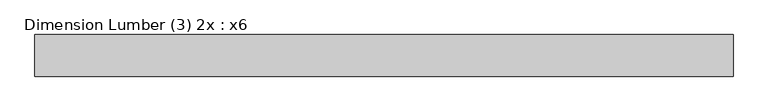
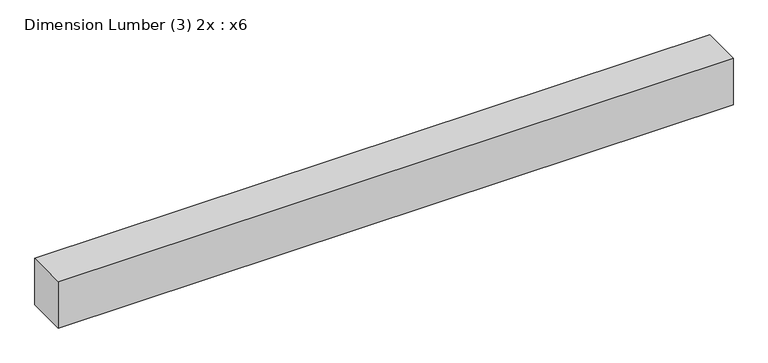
"""IFC4 building model written with IfcOpenShell, lengths in millimetres: beam geometry, Dimension Lumber (3) 2x : x6."""

from ifc_helpers import new_model, si_unit, frame, origin, place, context, project, spatial, polyline, outline, extrude, source, transform, mapped, element, save


def dimension_lumber_3_2x_x6_a999fe85(model_context):
    return source(origin(), model_context, "Body", "SweptSolid", [
        extrude(outline(polyline([(986.6376, 57.15), (986.6376, -57.15), (-929.4876, -57.15), (-929.4876, 57.15), (986.6376, 57.15)])), frame((0.0, 0.0, -69.85), z_axis=(0.0, 0.0, 1.0), x_axis=(1.0, 0.0, 0.0)), (0.0, 0.0, 1.0), 139.7),
    ])


if __name__ == "__main__":
    model = new_model("IFC4")
    model_context = context("Model", 3, world=origin())
    ifc_project = project(units=[si_unit("LENGTHUNIT", "METRE", prefix="MILLI")], contexts=[model_context])
    site = spatial("IfcSite", under=ifc_project)
    building = spatial("IfcBuilding", under=site)
    placement = place(None, origin())
    dimension_lumber_3_2x_x6_shape = dimension_lumber_3_2x_x6_a999fe85(model_context)
    element("IfcBeam", 1, ObjectType="Dimension Lumber (3) 2x : x6", at=placement, inside=building, context=model_context, shape_type="MappedRepresentation", body=[
        mapped(dimension_lumber_3_2x_x6_shape, transform((0.0, 0.0, 0.0), x_axis=(1.0, 0.0, 0.0), y_axis=(0.0, 1.0, 0.0), z_axis=(0.0, 0.0, 1.0))),
    ])
    save(model, "model.ifc")
